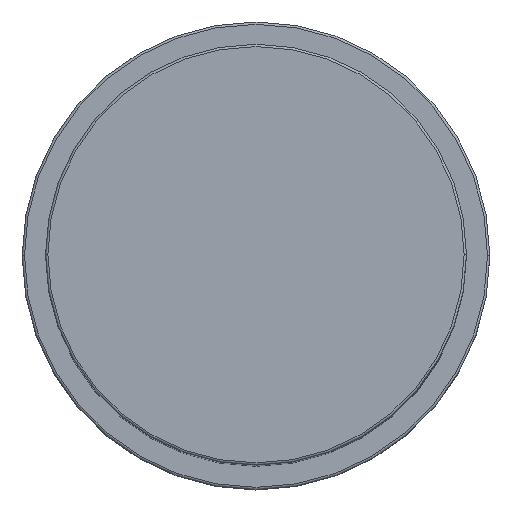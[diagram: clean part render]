
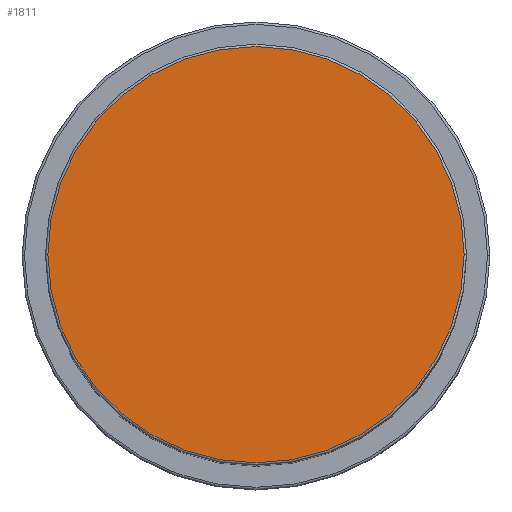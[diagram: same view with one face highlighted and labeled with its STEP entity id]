
A CAD part, top view. The second image highlights one B-rep face of the part: STEP entity #1811.
In plain terms, the highlighted planar face has unit normal (0, 0, 1).
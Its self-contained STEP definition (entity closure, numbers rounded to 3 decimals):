
#78 = CIRCLE ( 'NONE', #302, 44.5 ) ;
#120 = AXIS2_PLACEMENT_3D ( 'NONE', #1352, #233, #1835 ) ;
#191 = ORIENTED_EDGE ( 'NONE', *, *, #1804, .T. ) ;
#233 = DIRECTION ( 'NONE',  ( 0., 0., 1. ) ) ;
#302 = AXIS2_PLACEMENT_3D ( 'NONE', #1533, #742, #427 ) ;
#382 = DIRECTION ( 'NONE',  ( 1., 0., 0. ) ) ;
#427 = DIRECTION ( 'NONE',  ( 1., 0., 0. ) ) ;
#473 = VERTEX_POINT ( 'NONE', #1558 ) ;
#722 = EDGE_LOOP ( 'NONE', ( #974, #191 ) ) ;
#742 = DIRECTION ( 'NONE',  ( 0., 0., 1. ) ) ;
#918 = VERTEX_POINT ( 'NONE', #1675 ) ;
#974 = ORIENTED_EDGE ( 'NONE', *, *, #1371, .T. ) ;
#1041 = DIRECTION ( 'NONE',  ( 0., 0., 1. ) ) ;
#1188 = PLANE ( 'NONE',  #120 ) ;
#1352 = CARTESIAN_POINT ( 'NONE',  ( 0., 0., 159. ) ) ;
#1371 = EDGE_CURVE ( 'NONE', #918, #473, #78, .T. ) ;
#1533 = CARTESIAN_POINT ( 'NONE',  ( 0., 0., 159. ) ) ;
#1558 = CARTESIAN_POINT ( 'NONE',  ( -44.5, 0., 159. ) ) ;
#1665 = CARTESIAN_POINT ( 'NONE',  ( 0., 0., 159. ) ) ;
#1675 = CARTESIAN_POINT ( 'NONE',  ( 44.5, 0., 159. ) ) ;
#1691 = AXIS2_PLACEMENT_3D ( 'NONE', #1665, #1041, #382 ) ;
#1804 = EDGE_CURVE ( 'NONE', #473, #918, #2052, .T. ) ;
#1811 = ADVANCED_FACE ( 'NONE', ( #1936 ), #1188, .T. ) ;
#1835 = DIRECTION ( 'NONE',  ( 1., 0., 0. ) ) ;
#1936 = FACE_OUTER_BOUND ( 'NONE', #722, .T. ) ;
#2052 = CIRCLE ( 'NONE', #1691, 44.5 ) ;
